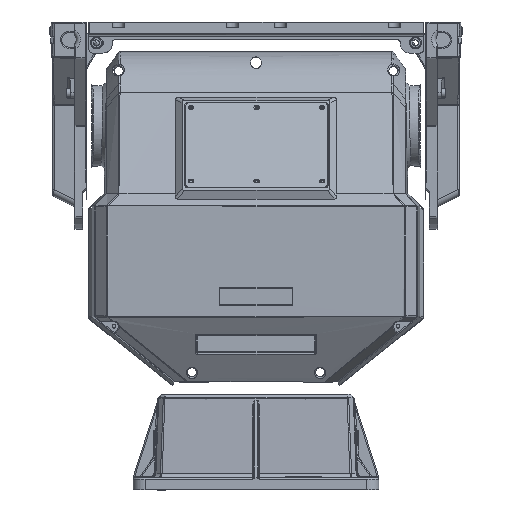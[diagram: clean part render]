
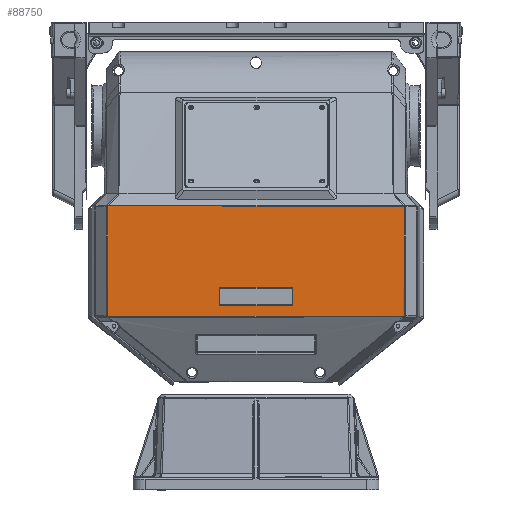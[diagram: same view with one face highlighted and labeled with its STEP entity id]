
A CAD part, front view. The second image highlights one B-rep face of the part: STEP entity #88750.
In plain terms, the highlighted planar face has unit normal (0, -1, 0).
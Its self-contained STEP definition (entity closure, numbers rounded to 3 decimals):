
#989 = CARTESIAN_POINT ( 'NONE',  ( 6.301, -2.502, 9.262 ) ) ;
#2129 = AXIS2_PLACEMENT_3D ( 'NONE', #35789, #69273, #94895 ) ;
#2360 = ORIENTED_EDGE ( 'NONE', *, *, #22658, .T. ) ;
#4017 = DIRECTION ( 'NONE',  ( 0., 0., -1. ) ) ;
#4689 = LINE ( 'NONE', #124588, #116126 ) ;
#7422 = LINE ( 'NONE', #105128, #73255 ) ;
#8530 = ORIENTED_EDGE ( 'NONE', *, *, #55954, .T. ) ;
#9320 = CARTESIAN_POINT ( 'NONE',  ( 6.332, -2.508, 9.26 ) ) ;
#11558 = ORIENTED_EDGE ( 'NONE', *, *, #76829, .T. ) ;
#11851 = VERTEX_POINT ( 'NONE', #56479 ) ;
#12147 = LINE ( 'NONE', #9320, #43394 ) ;
#12629 = DIRECTION ( 'NONE',  ( -1., 0., 0. ) ) ;
#13610 = EDGE_CURVE ( 'NONE', #68281, #40246, #103198, .T. ) ;
#17012 = B_SPLINE_CURVE_WITH_KNOTS ( 'NONE', 3,
 ( #52162, #41435, #84962, #30772 ),
 .UNSPECIFIED., .F., .F.,
 ( 4, 4 ),
 ( 0., 1. ),
 .UNSPECIFIED. ) ;
#18614 = CARTESIAN_POINT ( 'NONE',  ( -3.43, -2.508, 12.897 ) ) ;
#22658 = EDGE_CURVE ( 'NONE', #130839, #40246, #4689, .T. ) ;
#25528 = EDGE_CURVE ( 'NONE', #85666, #49075, #51431, .T. ) ;
#27212 = CARTESIAN_POINT ( 'NONE',  ( 6.332, -2.508, 12.887 ) ) ;
#27529 = LINE ( 'NONE', #114604, #65338 ) ;
#28650 = VERTEX_POINT ( 'NONE', #27212 ) ;
#29708 = CARTESIAN_POINT ( 'NONE',  ( 6.322, -2.508, 9.294 ) ) ;
#30732 = CARTESIAN_POINT ( 'NONE',  ( -3.446, -2.508, 12.887 ) ) ;
#30772 = CARTESIAN_POINT ( 'NONE',  ( 6.332, -2.508, 12.887 ) ) ;
#32171 = ORIENTED_EDGE ( 'NONE', *, *, #13610, .F. ) ;
#33330 = LINE ( 'NONE', #110367, #112714 ) ;
#33420 = DIRECTION ( 'NONE',  ( -0.886, 0., 0.464 ) ) ;
#34260 = CARTESIAN_POINT ( 'NONE',  ( 0.244, -2.508, 9.646 ) ) ;
#35789 = CARTESIAN_POINT ( 'NONE',  ( -3.478, -2.508, 9.26 ) ) ;
#36709 = ORIENTED_EDGE ( 'NONE', *, *, #46816, .T. ) ;
#38264 = DIRECTION ( 'NONE',  ( 1., 0., 0. ) ) ;
#38441 = EDGE_CURVE ( 'NONE', #122376, #11851, #44790, .T. ) ;
#39400 = EDGE_LOOP ( 'NONE', ( #11558, #129089, #43989, #101780 ) ) ;
#40246 = VERTEX_POINT ( 'NONE', #111780 ) ;
#41435 = CARTESIAN_POINT ( 'NONE',  ( 6.316, -2.508, 12.897 ) ) ;
#41525 = EDGE_CURVE ( 'NONE', #57586, #93925, #73813, .T. ) ;
#43394 = VECTOR ( 'NONE', #54939, 39.37 ) ;
#43989 = ORIENTED_EDGE ( 'NONE', *, *, #90399, .T. ) ;
#44790 = LINE ( 'NONE', #64799, #66670 ) ;
#45219 = DIRECTION ( 'NONE',  ( 1., 0., 0. ) ) ;
#46475 = FACE_BOUND ( 'NONE', #39400, .T. ) ;
#46816 = EDGE_CURVE ( 'NONE', #68281, #11851, #27529, .T. ) ;
#49075 = VERTEX_POINT ( 'NONE', #989 ) ;
#49340 = CARTESIAN_POINT ( 'NONE',  ( -3.416, -2.508, 9.283 ) ) ;
#49730 = VERTEX_POINT ( 'NONE', #122377 ) ;
#50923 = DIRECTION ( 'NONE',  ( 0., 0., 1. ) ) ;
#51431 = B_SPLINE_CURVE_WITH_KNOTS ( 'NONE', 3,
 ( #103190, #29708, #116798, #62504 ),
 .UNSPECIFIED., .F., .F.,
 ( 4, 4 ),
 ( 0., 1. ),
 .UNSPECIFIED. ) ;
#52162 = CARTESIAN_POINT ( 'NONE',  ( 6.308, -2.508, 12.903 ) ) ;
#53714 = CARTESIAN_POINT ( 'NONE',  ( 6.332, -2.508, 9.299 ) ) ;
#54939 = DIRECTION ( 'NONE',  ( 0., 0., 1. ) ) ;
#55954 = EDGE_CURVE ( 'NONE', #85666, #28650, #12147, .T. ) ;
#56479 = CARTESIAN_POINT ( 'NONE',  ( -3.446, -2.508, 9.299 ) ) ;
#57336 = CARTESIAN_POINT ( 'NONE',  ( -3.478, -2.508, 9.283 ) ) ;
#57586 = VERTEX_POINT ( 'NONE', #129184 ) ;
#62504 = CARTESIAN_POINT ( 'NONE',  ( 6.301, -2.508, 9.283 ) ) ;
#63113 = CARTESIAN_POINT ( 'NONE',  ( 2.642, -2.508, 9.26 ) ) ;
#64799 = CARTESIAN_POINT ( 'NONE',  ( -3.476, -2.508, 9.314 ) ) ;
#64987 = ORIENTED_EDGE ( 'NONE', *, *, #109466, .F. ) ;
#65338 = VECTOR ( 'NONE', #4017, 39.37 ) ;
#66670 = VECTOR ( 'NONE', #33420, 39.37 ) ;
#68281 = VERTEX_POINT ( 'NONE', #139754 ) ;
#69273 = DIRECTION ( 'NONE',  ( 0., -1., 0. ) ) ;
#71107 = EDGE_CURVE ( 'NONE', #86205, #49730, #7422, .T. ) ;
#73255 = VECTOR ( 'NONE', #50923, 39.37 ) ;
#73813 = LINE ( 'NONE', #63113, #85283 ) ;
#75558 = ORIENTED_EDGE ( 'NONE', *, *, #81260, .T. ) ;
#76829 = EDGE_CURVE ( 'NONE', #93925, #86205, #33330, .T. ) ;
#81260 = EDGE_CURVE ( 'NONE', #122376, #49075, #100135, .T. ) ;
#84962 = CARTESIAN_POINT ( 'NONE',  ( 6.324, -2.508, 12.892 ) ) ;
#85283 = VECTOR ( 'NONE', #106627, 39.37 ) ;
#85666 = VERTEX_POINT ( 'NONE', #53714 ) ;
#86205 = VERTEX_POINT ( 'NONE', #34260 ) ;
#88439 = CARTESIAN_POINT ( 'NONE',  ( 2.642, -2.508, 9.646 ) ) ;
#88750 = ADVANCED_FACE ( 'NONE', ( #122155, #46475 ), #89993, .T. ) ;
#89993 = PLANE ( 'NONE',  #2129 ) ;
#90399 = EDGE_CURVE ( 'NONE', #49730, #57586, #92480, .T. ) ;
#92480 = LINE ( 'NONE', #136042, #127701 ) ;
#93925 = VERTEX_POINT ( 'NONE', #88439 ) ;
#94895 = DIRECTION ( 'NONE',  ( 1., 0., 0. ) ) ;
#94933 = CARTESIAN_POINT ( 'NONE',  ( -3.438, -2.508, 12.892 ) ) ;
#99336 = VECTOR ( 'NONE', #45219, 39.37 ) ;
#100135 = LINE ( 'NONE', #57336, #99336 ) ;
#101780 = ORIENTED_EDGE ( 'NONE', *, *, #41525, .T. ) ;
#103190 = CARTESIAN_POINT ( 'NONE',  ( 6.332, -2.508, 9.299 ) ) ;
#103198 = B_SPLINE_CURVE_WITH_KNOTS ( 'NONE', 3,
 ( #30732, #94933, #18614, #129187 ),
 .UNSPECIFIED., .F., .F.,
 ( 4, 4 ),
 ( 0., 1. ),
 .UNSPECIFIED. ) ;
#105128 = CARTESIAN_POINT ( 'NONE',  ( 0.244, -2.508, 9.26 ) ) ;
#106627 = DIRECTION ( 'NONE',  ( 0., 0., -1. ) ) ;
#109466 = EDGE_CURVE ( 'NONE', #130839, #28650, #17012, .T. ) ;
#110367 = CARTESIAN_POINT ( 'NONE',  ( -3.478, -2.508, 9.646 ) ) ;
#111780 = CARTESIAN_POINT ( 'NONE',  ( -3.422, -2.504, 12.92 ) ) ;
#112714 = VECTOR ( 'NONE', #12629, 39.37 ) ;
#112755 = EDGE_LOOP ( 'NONE', ( #75558, #134167, #8530, #64987, #2360, #32171, #36709, #114686 ) ) ;
#114604 = CARTESIAN_POINT ( 'NONE',  ( -3.446, -2.508, 9.26 ) ) ;
#114686 = ORIENTED_EDGE ( 'NONE', *, *, #38441, .F. ) ;
#116126 = VECTOR ( 'NONE', #136687, 39.37 ) ;
#116798 = CARTESIAN_POINT ( 'NONE',  ( 6.312, -2.508, 9.288 ) ) ;
#122155 = FACE_OUTER_BOUND ( 'NONE', #112755, .T. ) ;
#122376 = VERTEX_POINT ( 'NONE', #49340 ) ;
#122377 = CARTESIAN_POINT ( 'NONE',  ( 0.244, -2.508, 10.212 ) ) ;
#124588 = CARTESIAN_POINT ( 'NONE',  ( -3.478, -2.508, 12.903 ) ) ;
#125534 = CARTESIAN_POINT ( 'NONE',  ( 6.308, -2.508, 12.903 ) ) ;
#127701 = VECTOR ( 'NONE', #38264, 39.37 ) ;
#129089 = ORIENTED_EDGE ( 'NONE', *, *, #71107, .T. ) ;
#129184 = CARTESIAN_POINT ( 'NONE',  ( 2.642, -2.508, 10.212 ) ) ;
#129187 = CARTESIAN_POINT ( 'NONE',  ( -3.422, -2.508, 12.903 ) ) ;
#130839 = VERTEX_POINT ( 'NONE', #125534 ) ;
#134167 = ORIENTED_EDGE ( 'NONE', *, *, #25528, .F. ) ;
#136042 = CARTESIAN_POINT ( 'NONE',  ( -3.478, -2.508, 10.212 ) ) ;
#136687 = DIRECTION ( 'NONE',  ( -1., 0., 0. ) ) ;
#139754 = CARTESIAN_POINT ( 'NONE',  ( -3.446, -2.508, 12.887 ) ) ;
